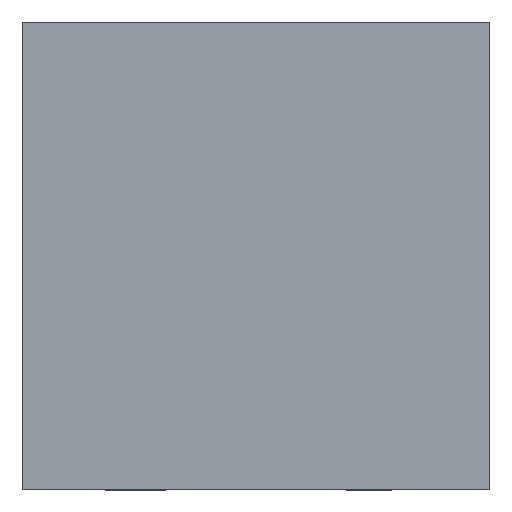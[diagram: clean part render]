
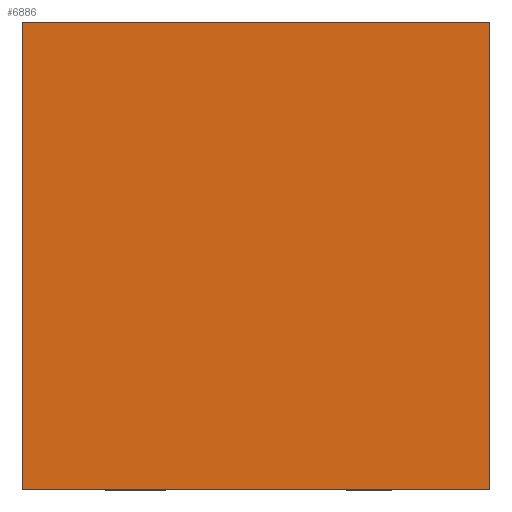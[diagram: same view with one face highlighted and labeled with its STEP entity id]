
A CAD part, top view. The second image highlights one B-rep face of the part: STEP entity #6886.
In plain terms, the highlighted planar face has unit normal (0, 0, 1).
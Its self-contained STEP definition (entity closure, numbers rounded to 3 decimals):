
#93 = FACE_OUTER_BOUND ( 'NONE', #5872, .T. ) ;
#126 = PLANE ( 'NONE',  #2414 ) ;
#223 = CARTESIAN_POINT ( 'NONE',  ( 0., 0., 0.485 ) ) ;
#723 = ORIENTED_EDGE ( 'NONE', *, *, #1866, .T. ) ;
#808 = LINE ( 'NONE', #941, #6943 ) ;
#867 = CARTESIAN_POINT ( 'NONE',  ( 0.775, 0.775, 0.485 ) ) ;
#941 = CARTESIAN_POINT ( 'NONE',  ( -0.775, -0.775, 0.485 ) ) ;
#1194 = DIRECTION ( 'NONE',  ( 1., 0., 0. ) ) ;
#1234 = VECTOR ( 'NONE', #6144, 1000. ) ;
#1594 = CARTESIAN_POINT ( 'NONE',  ( -0.775, -0.775, 0.485 ) ) ;
#1695 = CARTESIAN_POINT ( 'NONE',  ( 0.775, -0.775, 0.485 ) ) ;
#1866 = EDGE_CURVE ( 'NONE', #2525, #5497, #6357, .T. ) ;
#1958 = EDGE_CURVE ( 'NONE', #5497, #3095, #4458, .T. ) ;
#2341 = DIRECTION ( 'NONE',  ( -1., 0., 0. ) ) ;
#2414 = AXIS2_PLACEMENT_3D ( 'NONE', #223, #3926, #1194 ) ;
#2525 = VERTEX_POINT ( 'NONE', #3251 ) ;
#2984 = ORIENTED_EDGE ( 'NONE', *, *, #3029, .T. ) ;
#3029 = EDGE_CURVE ( 'NONE', #3095, #4658, #808, .T. ) ;
#3095 = VERTEX_POINT ( 'NONE', #1594 ) ;
#3251 = CARTESIAN_POINT ( 'NONE',  ( 0.775, 0.775, 0.485 ) ) ;
#3274 = EDGE_CURVE ( 'NONE', #4658, #2525, #4528, .T. ) ;
#3343 = CARTESIAN_POINT ( 'NONE',  ( -0.775, 0.775, 0.485 ) ) ;
#3491 = ORIENTED_EDGE ( 'NONE', *, *, #1958, .T. ) ;
#3793 = VECTOR ( 'NONE', #2341, 1000. ) ;
#3926 = DIRECTION ( 'NONE',  ( 0., 0., 1. ) ) ;
#4177 = ORIENTED_EDGE ( 'NONE', *, *, #3274, .T. ) ;
#4458 = LINE ( 'NONE', #3343, #5699 ) ;
#4528 = LINE ( 'NONE', #867, #1234 ) ;
#4608 = DIRECTION ( 'NONE',  ( 1., 0., 0. ) ) ;
#4658 = VERTEX_POINT ( 'NONE', #1695 ) ;
#5497 = VERTEX_POINT ( 'NONE', #5863 ) ;
#5587 = CARTESIAN_POINT ( 'NONE',  ( -0.775, 0.775, 0.485 ) ) ;
#5699 = VECTOR ( 'NONE', #6522, 1000. ) ;
#5863 = CARTESIAN_POINT ( 'NONE',  ( -0.775, 0.775, 0.485 ) ) ;
#5872 = EDGE_LOOP ( 'NONE', ( #4177, #723, #3491, #2984 ) ) ;
#6144 = DIRECTION ( 'NONE',  ( 0., 1., 0. ) ) ;
#6357 = LINE ( 'NONE', #5587, #3793 ) ;
#6522 = DIRECTION ( 'NONE',  ( 0., -1., 0. ) ) ;
#6886 = ADVANCED_FACE ( 'NONE', ( #93 ), #126, .T. ) ;
#6943 = VECTOR ( 'NONE', #4608, 1000. ) ;
